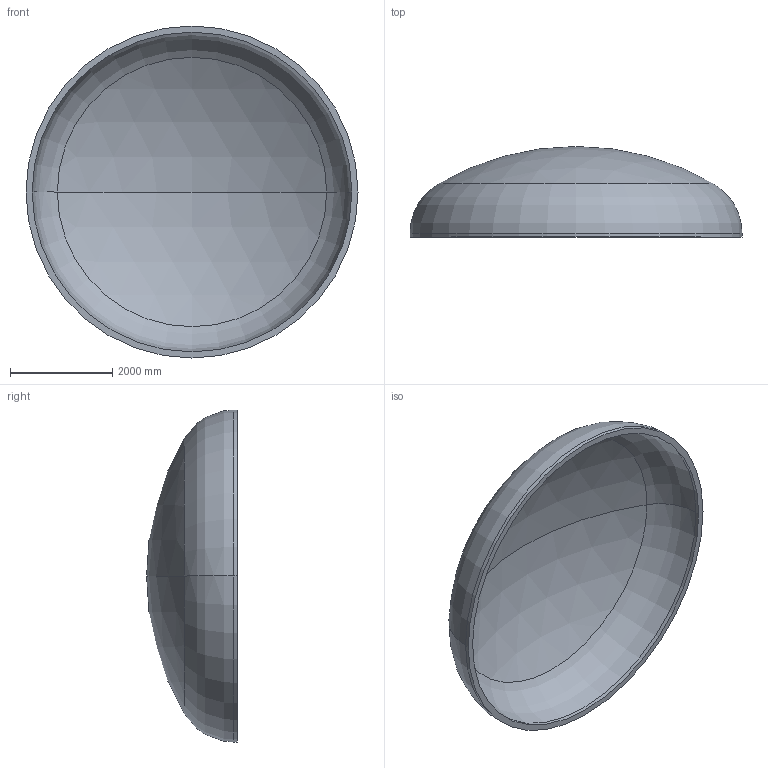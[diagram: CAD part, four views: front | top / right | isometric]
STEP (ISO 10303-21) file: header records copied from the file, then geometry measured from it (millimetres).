
FILE_DESCRIPTION (( 'STEP AP203' ), '1' );
FILE_NAME ('DIN 28013 Korbbogenform_-_Boden DIN 28013 - 6500 x 75 - I - s=120.step', '2016-07-04T10:44:39', ( '' ), ( '' ), 'SwSTEP 2.0', 'SolidWorks 2013', '' );
FILE_SCHEMA (( 'CONFIG_CONTROL_DESIGN' ));
Length unit declared in the file: millimetre
Products named in the file (1): DIN 28013 Korbbogenform_-_Boden DIN 28013 - 6500 x 75 - I - s=120
Bounding box: 6500 x 1775.18 x 6500 mm (x, y, z)
Volume: 5561732788.7 mm3; surface area: 95130874.4 mm2
Topology: 1 solids, 1 shells, 13 faces, 24 edges, 14 vertices
Faces by surface type: torus 4, cylinder 4, sphere 4, plane 1
Entity records: 407 total; most frequent: DIRECTION 72, CARTESIAN_POINT 52, ORIENTED_EDGE 48, AXIS2_PLACEMENT_3D 34, EDGE_CURVE 24, CIRCLE 20, VERTEX_POINT 14, EDGE_LOOP 14
